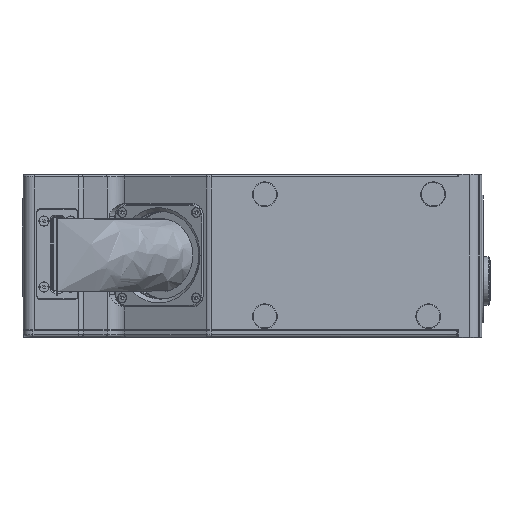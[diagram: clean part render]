
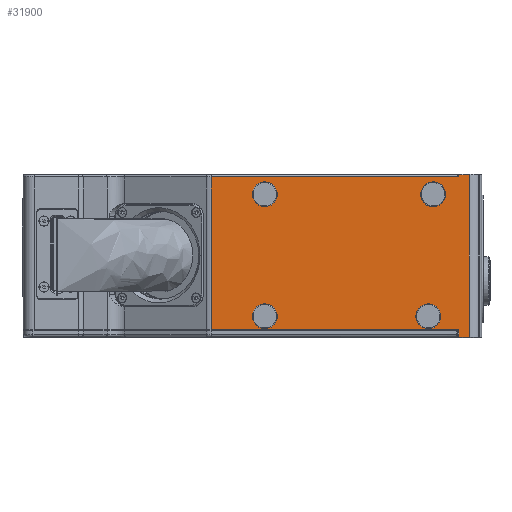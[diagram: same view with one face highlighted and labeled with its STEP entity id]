
A CAD part, front view. The second image highlights one B-rep face of the part: STEP entity #31900.
In plain terms, the highlighted planar face has unit normal (0, -1, 0).
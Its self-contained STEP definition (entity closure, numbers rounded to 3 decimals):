
#2608 = CARTESIAN_POINT ( 'NONE',  ( 80.601, -17.156, 2.534 ) ) ;
#3293 = AXIS2_PLACEMENT_3D ( 'NONE', #213890, #11253, #37793 ) ;
#3887 = CARTESIAN_POINT ( 'NONE',  ( 176.101, -17.156, 65.134 ) ) ;
#6951 = CARTESIAN_POINT ( 'NONE',  ( 180.458, -17.156, -0.566 ) ) ;
#7366 = AXIS2_PLACEMENT_3D ( 'NONE', #251539, #45899, #136154 ) ;
#8090 = VECTOR ( 'NONE', #83782, 1000. ) ;
#11253 = DIRECTION ( 'NONE',  ( 0., -1., 0. ) ) ;
#12302 = EDGE_CURVE ( 'NONE', #104724, #67773, #228584, .T. ) ;
#13290 = LINE ( 'NONE', #36903, #213282 ) ;
#13699 = DIRECTION ( 'NONE',  ( 0., 0., -1. ) ) ;
#18697 = DIRECTION ( 'NONE',  ( 0., 0., -1. ) ) ;
#19396 = CARTESIAN_POINT ( 'NONE',  ( 96.601, -17.156, 52.934 ) ) ;
#19907 = DIRECTION ( 'NONE',  ( 0., 1., 0. ) ) ;
#23347 = EDGE_CURVE ( 'NONE', #77925, #223300, #170775, .T. ) ;
#28494 = ORIENTED_EDGE ( 'NONE', *, *, #286661, .F. ) ;
#29265 = VECTOR ( 'NONE', #72074, 1000. ) ;
#31115 = VERTEX_POINT ( 'NONE', #182195 ) ;
#31900 = ADVANCED_FACE ( 'NONE', ( #268490, #132373, #247774, #136791, #227022 ), #133843, .F. ) ;
#32877 = ORIENTED_EDGE ( 'NONE', *, *, #106676, .F. ) ;
#34530 = DIRECTION ( 'NONE',  ( 0., 0., -1. ) ) ;
#36817 = EDGE_LOOP ( 'NONE', ( #114155, #111128 ) ) ;
#36903 = CARTESIAN_POINT ( 'NONE',  ( 80.601, -17.156, 65.134 ) ) ;
#37793 = DIRECTION ( 'NONE',  ( 0., 0., -1. ) ) ;
#40900 = CARTESIAN_POINT ( 'NONE',  ( 176.101, -17.156, 66.134 ) ) ;
#40941 = VERTEX_POINT ( 'NONE', #143742 ) ;
#41156 = EDGE_CURVE ( 'NONE', #31115, #89580, #288158, .T. ) ;
#41290 = AXIS2_PLACEMENT_3D ( 'NONE', #83772, #174190, #18697 ) ;
#41626 = EDGE_CURVE ( 'NONE', #40941, #203369, #95417, .T. ) ;
#45899 = DIRECTION ( 'NONE',  ( 0., -1., 0. ) ) ;
#46537 = DIRECTION ( 'NONE',  ( 0., 0., 1. ) ) ;
#47418 = CARTESIAN_POINT ( 'NONE',  ( 96.601, -17.156, 58.034 ) ) ;
#47576 = DIRECTION ( 'NONE',  ( 0., -1., 0. ) ) ;
#50755 = EDGE_CURVE ( 'NONE', #88712, #102127, #202998, .T. ) ;
#52691 = DIRECTION ( 'NONE',  ( 0., 0., -1. ) ) ;
#54343 = EDGE_LOOP ( 'NONE', ( #28494, #242760 ) ) ;
#57375 = EDGE_CURVE ( 'NONE', #100329, #84257, #267676, .T. ) ;
#62456 = LINE ( 'NONE', #194223, #211097 ) ;
#63127 = VECTOR ( 'NONE', #71384, 1000. ) ;
#63496 = DIRECTION ( 'NONE',  ( -1., 0., 0. ) ) ;
#65343 = ORIENTED_EDGE ( 'NONE', *, *, #84207, .T. ) ;
#67773 = VERTEX_POINT ( 'NONE', #19396 ) ;
#71384 = DIRECTION ( 'NONE',  ( 0., 0., 1. ) ) ;
#72074 = DIRECTION ( 'NONE',  ( 1., 0., 0. ) ) ;
#74264 = LINE ( 'NONE', #206003, #63127 ) ;
#76091 = EDGE_CURVE ( 'NONE', #102127, #228693, #202372, .T. ) ;
#77925 = VERTEX_POINT ( 'NONE', #98840 ) ;
#80729 = EDGE_CURVE ( 'NONE', #67773, #104724, #234753, .T. ) ;
#83772 = CARTESIAN_POINT ( 'NONE',  ( 96.601, -17.156, 8.034 ) ) ;
#83782 = DIRECTION ( 'NONE',  ( 0., 0., -1. ) ) ;
#84207 = EDGE_CURVE ( 'NONE', #228693, #123233, #62456, .T. ) ;
#84257 = VERTEX_POINT ( 'NONE', #130502 ) ;
#88712 = VERTEX_POINT ( 'NONE', #113117 ) ;
#89580 = VERTEX_POINT ( 'NONE', #164238 ) ;
#92549 = ORIENTED_EDGE ( 'NONE', *, *, #57375, .F. ) ;
#93183 = DIRECTION ( 'NONE',  ( 0., 0., -1. ) ) ;
#95417 = CIRCLE ( 'NONE', #137955, 5.1 ) ;
#98840 = CARTESIAN_POINT ( 'NONE',  ( 180.458, -17.156, 66.034 ) ) ;
#100329 = VERTEX_POINT ( 'NONE', #155595 ) ;
#102127 = VERTEX_POINT ( 'NONE', #200785 ) ;
#104724 = VERTEX_POINT ( 'NONE', #185855 ) ;
#106676 = EDGE_CURVE ( 'NONE', #84257, #100329, #181680, .T. ) ;
#107640 = VECTOR ( 'NONE', #189975, 1000. ) ;
#111128 = ORIENTED_EDGE ( 'NONE', *, *, #41626, .F. ) ;
#113117 = CARTESIAN_POINT ( 'NONE',  ( 74.673, -17.156, 65.134 ) ) ;
#114155 = ORIENTED_EDGE ( 'NONE', *, *, #288822, .F. ) ;
#115535 = DIRECTION ( 'NONE',  ( 0., 0., -1. ) ) ;
#119047 = EDGE_LOOP ( 'NONE', ( #32877, #92549 ) ) ;
#119318 = LINE ( 'NONE', #6951, #214909 ) ;
#123233 = VERTEX_POINT ( 'NONE', #226657 ) ;
#128790 = VERTEX_POINT ( 'NONE', #3887 ) ;
#130502 = CARTESIAN_POINT ( 'NONE',  ( 165.601, -17.156, 52.934 ) ) ;
#132373 = FACE_BOUND ( 'NONE', #36817, .T. ) ;
#133843 = PLANE ( 'NONE',  #175696 ) ;
#136154 = DIRECTION ( 'NONE',  ( 0., 0., -1. ) ) ;
#136791 = FACE_BOUND ( 'NONE', #209746, .T. ) ;
#137955 = AXIS2_PLACEMENT_3D ( 'NONE', #260955, #237331, #34530 ) ;
#143742 = CARTESIAN_POINT ( 'NONE',  ( 96.601, -17.156, 13.134 ) ) ;
#146833 = CARTESIAN_POINT ( 'NONE',  ( 180.458, -17.156, -0.566 ) ) ;
#155461 = ORIENTED_EDGE ( 'NONE', *, *, #50755, .T. ) ;
#155595 = CARTESIAN_POINT ( 'NONE',  ( 165.601, -17.156, 63.134 ) ) ;
#160102 = CARTESIAN_POINT ( 'NONE',  ( 165.601, -17.156, 58.034 ) ) ;
#163819 = DIRECTION ( 'NONE',  ( 0., -1., 0. ) ) ;
#163886 = DIRECTION ( 'NONE',  ( 1., 0., 0. ) ) ;
#164238 = CARTESIAN_POINT ( 'NONE',  ( 163.601, -17.156, 2.934 ) ) ;
#164484 = DIRECTION ( 'NONE',  ( 0., 0., -1. ) ) ;
#164907 = CARTESIAN_POINT ( 'NONE',  ( 176.101, -17.156, 2.534 ) ) ;
#170775 = LINE ( 'NONE', #232927, #107640 ) ;
#171271 = LINE ( 'NONE', #40900, #8090 ) ;
#172209 = AXIS2_PLACEMENT_3D ( 'NONE', #160102, #47576, #115535 ) ;
#174190 = DIRECTION ( 'NONE',  ( 0., -1., 0. ) ) ;
#174412 = ORIENTED_EDGE ( 'NONE', *, *, #76091, .T. ) ;
#175696 = AXIS2_PLACEMENT_3D ( 'NONE', #244876, #19907, #46537 ) ;
#181680 = CIRCLE ( 'NONE', #172209, 5.1 ) ;
#182195 = CARTESIAN_POINT ( 'NONE',  ( 163.601, -17.156, 13.134 ) ) ;
#182332 = EDGE_CURVE ( 'NONE', #128790, #88712, #13290, .T. ) ;
#185855 = CARTESIAN_POINT ( 'NONE',  ( 96.601, -17.156, 63.134 ) ) ;
#188813 = CARTESIAN_POINT ( 'NONE',  ( 165.601, -17.156, 58.034 ) ) ;
#189975 = DIRECTION ( 'NONE',  ( -1., 0., 0. ) ) ;
#194223 = CARTESIAN_POINT ( 'NONE',  ( 176.101, -17.156, -0.766 ) ) ;
#200785 = CARTESIAN_POINT ( 'NONE',  ( 74.673, -17.156, 2.534 ) ) ;
#201255 = EDGE_CURVE ( 'NONE', #202096, #77925, #74264, .T. ) ;
#201941 = EDGE_CURVE ( 'NONE', #223300, #128790, #171271, .T. ) ;
#202096 = VERTEX_POINT ( 'NONE', #146833 ) ;
#202372 = LINE ( 'NONE', #2608, #29265 ) ;
#202998 = LINE ( 'NONE', #205880, #284375 ) ;
#203369 = VERTEX_POINT ( 'NONE', #204065 ) ;
#204065 = CARTESIAN_POINT ( 'NONE',  ( 96.601, -17.156, 2.934 ) ) ;
#205880 = CARTESIAN_POINT ( 'NONE',  ( 74.673, -17.156, 2.534 ) ) ;
#206003 = CARTESIAN_POINT ( 'NONE',  ( 180.458, -17.156, 66.134 ) ) ;
#209746 = EDGE_LOOP ( 'NONE', ( #238335, #278151 ) ) ;
#211097 = VECTOR ( 'NONE', #13699, 1000. ) ;
#213282 = VECTOR ( 'NONE', #63496, 1000. ) ;
#213890 = CARTESIAN_POINT ( 'NONE',  ( 96.601, -17.156, 58.034 ) ) ;
#214560 = ORIENTED_EDGE ( 'NONE', *, *, #279317, .T. ) ;
#214909 = VECTOR ( 'NONE', #163886, 1000. ) ;
#223300 = VERTEX_POINT ( 'NONE', #259831 ) ;
#225054 = AXIS2_PLACEMENT_3D ( 'NONE', #188813, #163819, #52691 ) ;
#226657 = CARTESIAN_POINT ( 'NONE',  ( 176.101, -17.156, -0.566 ) ) ;
#227022 = FACE_OUTER_BOUND ( 'NONE', #241572, .T. ) ;
#228010 = ORIENTED_EDGE ( 'NONE', *, *, #201941, .T. ) ;
#228584 = CIRCLE ( 'NONE', #261698, 5.1 ) ;
#228693 = VERTEX_POINT ( 'NONE', #164907 ) ;
#228899 = DIRECTION ( 'NONE',  ( 0., 0., -1. ) ) ;
#232927 = CARTESIAN_POINT ( 'NONE',  ( 176.101, -17.156, 66.034 ) ) ;
#233283 = CARTESIAN_POINT ( 'NONE',  ( 163.601, -17.156, 8.034 ) ) ;
#234753 = CIRCLE ( 'NONE', #3293, 5.1 ) ;
#237331 = DIRECTION ( 'NONE',  ( 0., -1., 0. ) ) ;
#238335 = ORIENTED_EDGE ( 'NONE', *, *, #80729, .F. ) ;
#241572 = EDGE_LOOP ( 'NONE', ( #65343, #214560, #244530, #287497, #228010, #268695, #155461, #174412 ) ) ;
#242760 = ORIENTED_EDGE ( 'NONE', *, *, #41156, .F. ) ;
#244530 = ORIENTED_EDGE ( 'NONE', *, *, #201255, .T. ) ;
#244876 = CARTESIAN_POINT ( 'NONE',  ( 80.601, -17.156, 66.134 ) ) ;
#247774 = FACE_BOUND ( 'NONE', #54343, .T. ) ;
#248682 = DIRECTION ( 'NONE',  ( 0., -1., 0. ) ) ;
#251539 = CARTESIAN_POINT ( 'NONE',  ( 163.601, -17.156, 8.034 ) ) ;
#253008 = CIRCLE ( 'NONE', #7366, 5.1 ) ;
#259831 = CARTESIAN_POINT ( 'NONE',  ( 176.101, -17.156, 66.034 ) ) ;
#260955 = CARTESIAN_POINT ( 'NONE',  ( 96.601, -17.156, 8.034 ) ) ;
#261698 = AXIS2_PLACEMENT_3D ( 'NONE', #47418, #248682, #93183 ) ;
#263243 = CIRCLE ( 'NONE', #41290, 5.1 ) ;
#264432 = AXIS2_PLACEMENT_3D ( 'NONE', #233283, #277670, #228899 ) ;
#267676 = CIRCLE ( 'NONE', #225054, 5.1 ) ;
#268490 = FACE_BOUND ( 'NONE', #119047, .T. ) ;
#268695 = ORIENTED_EDGE ( 'NONE', *, *, #182332, .T. ) ;
#277670 = DIRECTION ( 'NONE',  ( 0., -1., 0. ) ) ;
#278151 = ORIENTED_EDGE ( 'NONE', *, *, #12302, .F. ) ;
#279317 = EDGE_CURVE ( 'NONE', #123233, #202096, #119318, .T. ) ;
#284375 = VECTOR ( 'NONE', #164484, 1000. ) ;
#286661 = EDGE_CURVE ( 'NONE', #89580, #31115, #253008, .T. ) ;
#287497 = ORIENTED_EDGE ( 'NONE', *, *, #23347, .T. ) ;
#288158 = CIRCLE ( 'NONE', #264432, 5.1 ) ;
#288822 = EDGE_CURVE ( 'NONE', #203369, #40941, #263243, .T. ) ;
